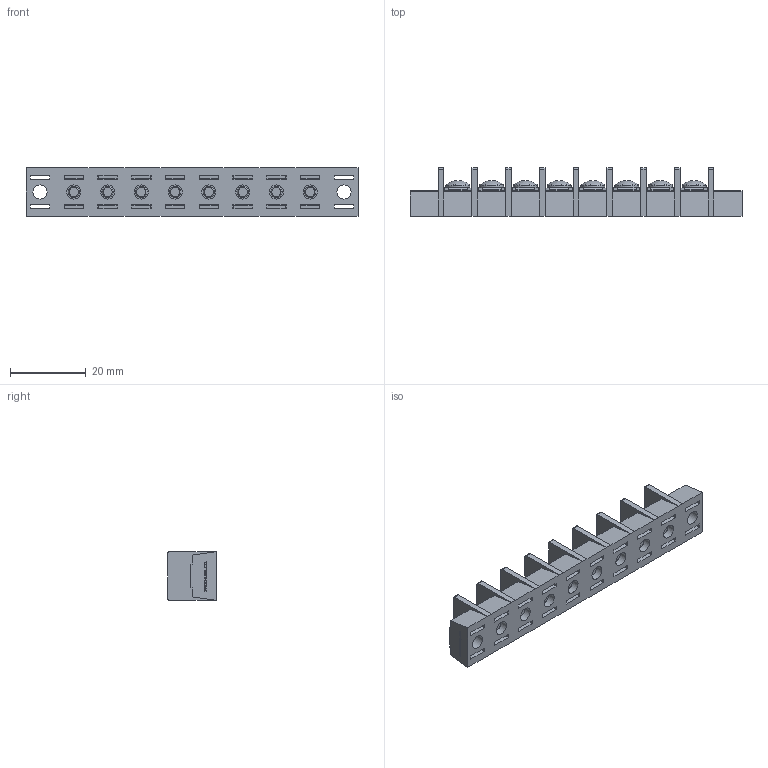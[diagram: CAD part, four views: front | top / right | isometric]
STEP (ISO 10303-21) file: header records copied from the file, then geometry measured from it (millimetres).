
FILE_DESCRIPTION(/* description */ ('Alibre Inc.'),/* implementation_level */ '2;1');
FILE_NAME(/* name */ 'export0',/* time_stamp */ '2015-10-20T20:38:03+09:00',/* author */ (''),/* organization */ (''),/* preprocessor_version */ 'ST-DEVELOPER v14',/* originating_system */ 'Alibre',/* authorisation */ '');
FILE_SCHEMA (('CONFIG_CONTROL_DESIGN'));
Length unit declared in the file: centimetre
Products named in the file (1): ID_1
Bounding box: 87.41 x 12.8 x 12.8 mm (x, y, z)
Volume: 7559.9 mm3; surface area: 9193.4 mm2
Topology: 1 solids, 137 shells, 2628 faces, 6726 edges, 4446 vertices
Faces by surface type: plane 1966, bspline 520, cylinder 78, cone 40, torus 16, sphere 8
Full cylindrical faces by diameter (mm): 3 x16, 3.7 x10, 4.6 x10, 6.3 x8
Entity records: 76051 total; most frequent: CARTESIAN_POINT 18449, ORIENTED_EDGE 13296, DIRECTION 7944, EDGE_CURVE 6648, VECTOR 5140, LINE 5140, VERTEX_POINT 4436, EDGE_LOOP 2894
